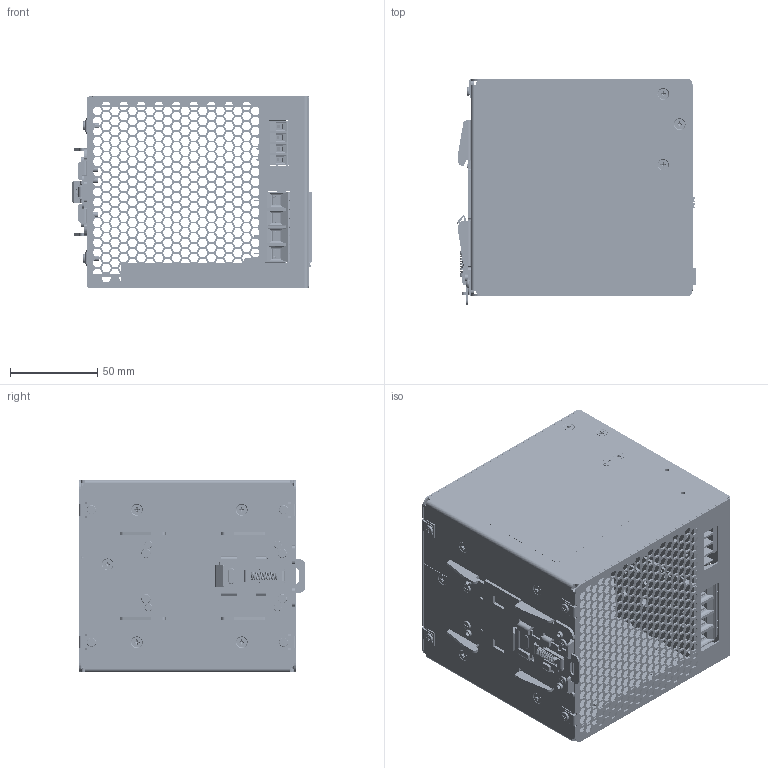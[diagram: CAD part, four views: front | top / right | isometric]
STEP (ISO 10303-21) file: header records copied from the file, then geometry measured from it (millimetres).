
FILE_DESCRIPTION((''),'2;1');
FILE_NAME('DRF-24V960W3GBA_ASM_ASM','2022-05-11T',('Kidsada.Kohk'),(''),'CREO PARAMETRIC BY PTC INC, 2015080','CREO PARAMETRIC BY PTC INC, 2015080','');
FILE_SCHEMA(('CONFIG_CONTROL_DESIGN'));
Products named in the file (43): PWB_DC-TO-DC_BOARD_143; PWB_OUTPUT_ADC-126_20; BREP_WITH_VOIDS_61365_13; MANIFOLD_SOLID_BREP_64267_1; MANIFOLD_SOLID_BREP_67169_1; 1-4PIN_1_ASM_3_ASM_ASM; VP0464X40000G_ASM_10_ASM_ASM; PWB_OUTPUT_ADC-176-126_ASM_379__ASM; 307307817U_DG212R_8; 330390250102_11; 330390250102_ASM_10_ASM_ASM; 3105320000_L6_1; 3105318101_L5_1; 3105322400_L14_1; LED_GRN_1; 3240048TPS01_39; EE_VR_0604101318_0604103518_8; PWB_DC-TO-DC__ASM_447_ASM_ASM; PWB_PFC_ADC-118_3; PWB_INPUT_ADC-117_9; 307347931G_KP04000306DAG_6; PWB_INPUT_ADC-117_ASM_30_ASM_ASM; MANIFOLD_SOLID_BREP_908431; MANIFOLD_SOLID_BREP_908544; 330390260102_6_ASM_ASM; 330390260102_A_STUD-_1; 330390260102_ASM_5_ASM_ASM; MANIFOLD_SOLID_BREP_918734; 3103300600_6-32L6_1_ASM_ASM; PWB__PFC_ADC-118_ASM_146_ASM_ASM; MANIFOLD_SOLID_BREP_2032598; MANIFOLD_SOLID_BREP_2032686; MANIFOLD_SOLID_BREP_2032774; 346687370101_1_ASM_ASM; 346008810000_1; 346209430000_1; ASSY_LATCH_ASM_2_ASM_ASM; 326820910000_1; 3105452600_L9_1; 330390230203_1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
Assembly tree (64 placements, depth 6):
  DRF-24V960W3GBA_ASM_ASM
    PWB_DC-TO-DC__ASM_447_ASM_ASM
      PWB_DC-TO-DC_BOARD_143
      PWB_OUTPUT_ADC-176-126_ASM_379__ASM
        PWB_OUTPUT_ADC-126_20
        VP0464X40000G_ASM_10_ASM_ASM
          1-4PIN_1_ASM_3_ASM_ASM
            BREP_WITH_VOIDS_61365_13
            MANIFOLD_SOLID_BREP_64267_1
            MANIFOLD_SOLID_BREP_67169_1
      307307817U_DG212R_8
      330390250102_ASM_10_ASM_ASM
        330390250102_11
      3105320000_L6_1  x3
      3105318101_L5_1  x2
      3105322400_L14_1
      LED_GRN_1
      3240048TPS01_39
      EE_VR_0604101318_0604103518_8
    PWB__PFC_ADC-118_ASM_146_ASM_ASM
      PWB_PFC_ADC-118_3
      PWB_INPUT_ADC-117_ASM_30_ASM_ASM
        PWB_INPUT_ADC-117_9
        307347931G_KP04000306DAG_6
      330390260102_ASM_5_ASM_ASM
        330390260102_6_ASM_ASM
          MANIFOLD_SOLID_BREP_908431
          MANIFOLD_SOLID_BREP_908544
        330390260102_A_STUD-_1
      3103300600_6-32L6_1_ASM_ASM
        MANIFOLD_SOLID_BREP_918734
      3105320000_L6_1  x3
    ASSY_LATCH_ASM_2_ASM_ASM
      346687370101_1_ASM_ASM
        MANIFOLD_SOLID_BREP_2032598
        MANIFOLD_SOLID_BREP_2032686
        MANIFOLD_SOLID_BREP_2032774
      346008810000_1
      346209430000_1
    3105320000_L6_1  x7
    326820910000_1
    3105318101_L5_1  x2
    3105452600_L9_1
    330390230203_1
    326474760304_6
    3101028600  x8
Bounding box: 136.84 x 129.1 x 110.05 mm (x, y, z)
Volume: 203276.6 mm3; surface area: 337334.4 mm2
Topology: 52 solids, 60 shells, 10927 faces, 30756 edges, 19904 vertices
Faces by surface type: plane 8611, cylinder 1652, cone 296, bspline 238, torus 118, sphere 8, extrusion 4
Entity records: 417874 total; most frequent: CARTESIAN_POINT 81744, ORIENTED_EDGE 57476, DIRECTION 51210, EDGE_CURVE 28738, VECTOR 24128, LINE 24124, PRESENTATION_STYLE_ASSIGNMENT 21791, STYLED_ITEM 21699
